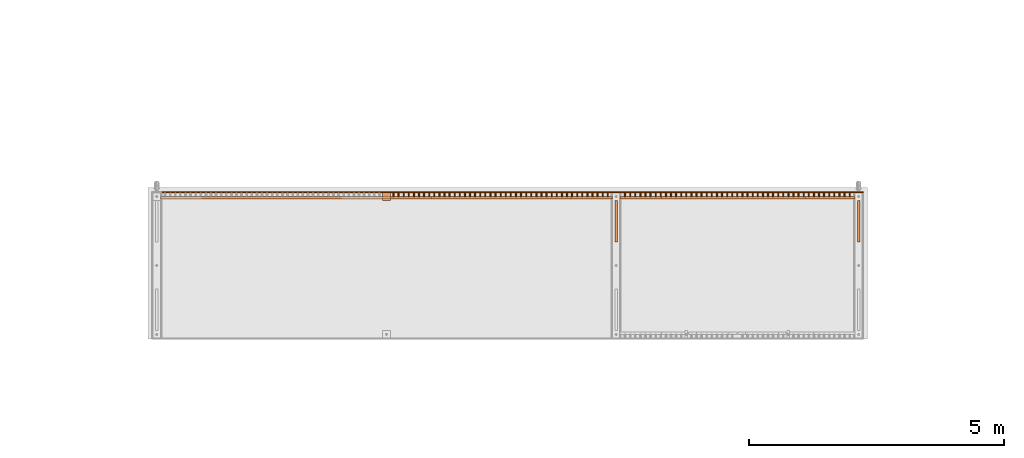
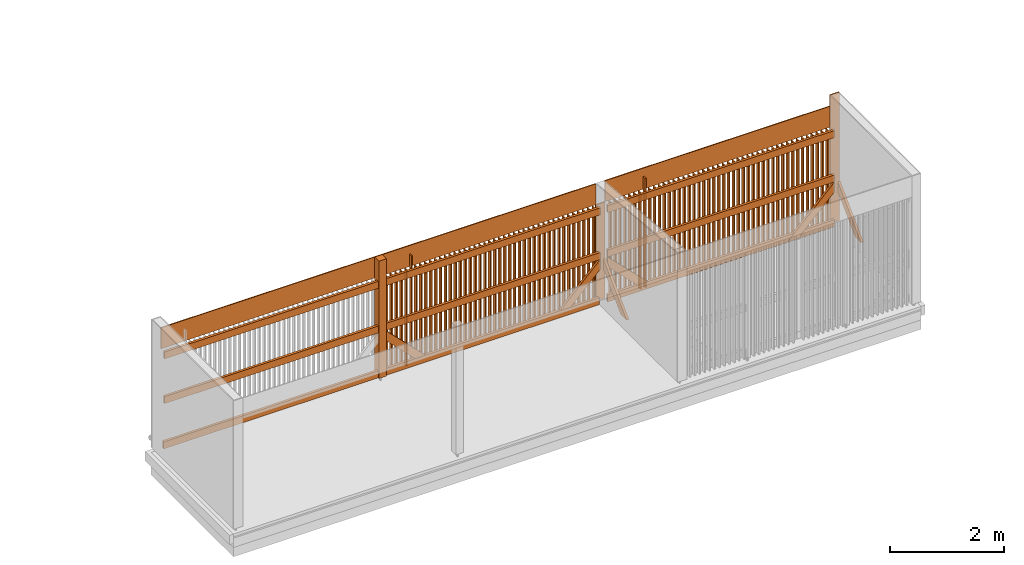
# One storey, part 358 of 418: 109 proxies.
"""IFC2X3 building model written with IfcOpenShell, lengths in millimetres."""

from ifc_helpers import new_model, entity, si_unit, converted_unit, derived_unit, money_unit, direction, frame, frame_2d, origin_with_axes, origin_2d_with_axis, place, context, subcontext, project, spatial, polyline, rectangle, outline, extrude, clip, halfspace, material, type_object, element, save


model = new_model("IFC2X3")

# Units and contexts
model_context = context("Model", 3, precision=0.01, world=origin_with_axes(), true_north=direction((0.0, 1.0)))
body_context = subcontext(model_context, "Body", "Model", "MODEL_VIEW")
ifc_project = project(units=[si_unit("LENGTHUNIT", "METRE", prefix="MILLI"), si_unit("AREAUNIT", "SQUARE_METRE"), si_unit("VOLUMEUNIT", "CUBIC_METRE"), converted_unit("PLANEANGLEUNIT", "DEGREE", entity("IfcPlaneAngleMeasure", 0.0174532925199), si_unit("PLANEANGLEUNIT", "RADIAN"), dimensions=[0, 0, 0, 0, 0, 0, 0]), si_unit("SOLIDANGLEUNIT", "STERADIAN"), money_unit("EUR"), converted_unit("TIMEUNIT", "Year", entity("IfcTimeMeasure", 31556926.0), si_unit("TIMEUNIT", "SECOND"), dimensions=[0, 0, 1, 0, 0, 0, 0]), si_unit("MASSUNIT", "GRAM", prefix="KILO"), si_unit("THERMODYNAMICTEMPERATUREUNIT", "DEGREE_CELSIUS"), si_unit("LUMINOUSINTENSITYUNIT", "LUMEN"), si_unit("ENERGYUNIT", "JOULE", prefix="MEGA"), derived_unit("THERMALCONDUCTANCEUNIT", [(si_unit("POWERUNIT", "WATT"), 1), (si_unit("LENGTHUNIT", "METRE"), -1), (si_unit("THERMODYNAMICTEMPERATUREUNIT", "KELVIN"), -1)]), derived_unit("SPECIFICHEATCAPACITYUNIT", [(si_unit("ENERGYUNIT", "JOULE"), 1), (si_unit("MASSUNIT", "GRAM", prefix="KILO"), -1), (si_unit("THERMODYNAMICTEMPERATUREUNIT", "KELVIN"), -1)]), derived_unit("MASSDENSITYUNIT", [(si_unit("MASSUNIT", "GRAM", prefix="KILO"), 1), (si_unit("VOLUMEUNIT", "CUBIC_METRE"), -1)])], contexts=[model_context])

# Site, building, storey
site_placement = place(None, origin_with_axes())
site = spatial("IfcSite", under=ifc_project, at=site_placement, Name="Paldiski mnt 245/1, Tallinn, Harjumaa", CompositionType="COMPLEX")
building_placement = place(site_placement, origin_with_axes())
building = spatial("IfcBuilding", under=site, at=building_placement, Name="RKAS Hoone üldnimetus (kasutust iseloomustav) -> IFC Project Manager -> SOLIBRI", CompositionType="ELEMENT")
storey_placement = place(building_placement, origin_with_axes())
storey = spatial("IfcBuildingStorey", under=building, at=storey_placement, Name="Esimene korrus", CompositionType="ELEMENT", Elevation=0.0)

# Proxies
ifc_material_1 = material(Name="Voodrilaud UYS 21x120mm")
building_element_proxy_type_1 = type_object("IfcBuildingElementProxyType", Name="Voodrilaud UYS 21x120mm 20", PredefinedType="NOTDEFINED")
proxy_1_placement = place(storey_placement, frame((-7319.27179277, 14018.7949578, -960.0), z_axis=(0.0, 0.0, 1.0), x_axis=(1.0, 0.0, 0.0)))
element("IfcBuildingElementProxy", 1, at=proxy_1_placement, inside=storey, type_object=building_element_proxy_type_1, material=ifc_material_1, Name="Välissein_1", context=body_context, shape_type="SweptSolid", body=[
    extrude(outline(polyline([(0.0, 0.0), (189.999991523, 0.0), (189.999991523, 20.0), (0.0, 20.0), (0.0, 0.0)])), origin_with_axes(), (0.0, 0.0, 1.0), 2752.59465133),
])
proxy_2_placement = place(storey_placement, frame((-12069.2717928, 14018.7949578, -960.0), z_axis=(0.0, 0.0, 1.0), x_axis=(1.0, 0.0, 0.0)))
element("IfcBuildingElementProxy", 2, at=proxy_2_placement, inside=storey, type_object=building_element_proxy_type_1, material=ifc_material_1, Name="Välissein_1", context=body_context, shape_type="SweptSolid", body=[
    extrude(outline(polyline([(0.0, 0.0), (189.999991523, 0.0), (189.999991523, 20.0), (0.0, 20.0), (0.0, 0.0)])), origin_with_axes(), (0.0, 0.0, 1.0), 2063.68114765),
])
proxy_3_placement = place(storey_placement, frame((-12069.2718012, 14019.7950178, 1103.68116898), z_axis=(0.0, 0.0, 1.0), x_axis=(-1.0, 0.0, 0.0)))
element("IfcBuildingElementProxy", 3, at=proxy_3_placement, inside=storey, type_object=building_element_proxy_type_1, material=ifc_material_1, Name="Puitlaudis UYS 20x120mm", context=body_context, shape_type="SweptSolid", body=[
    extrude(outline(polyline([(0.0, -20.0), (8810.00006937, -20.0), (8810.00006937, 0.0), (0.0, 0.0), (0.0, -20.0)])), origin_with_axes(), (0.0, 0.0, 1.0), 449.999978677),
])
proxy_4_placement = place(storey_placement, frame((-7319.27180125, 14019.7950178, 1103.68116898), z_axis=(0.0, 0.0, 1.0), x_axis=(-1.0, 0.0, 0.0)))
element("IfcBuildingElementProxy", 4, at=proxy_4_placement, inside=storey, type_object=building_element_proxy_type_1, material=ifc_material_1, Name="Puitlaudis UYS 20x120mm", context=body_context, shape_type="SweptSolid", body=[
    extrude(outline(polyline([(0.0, -20.0), (4560.00001496, -20.0), (4560.00001496, 0.0), (0.0, 0.0), (0.0, -20.0)])), origin_with_axes(), (0.0, 0.0, 1.0), 449.999978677),
])
ifc_material_2 = material(Name="Puit konstruktsioon")
building_element_proxy_type_2 = type_object("IfcBuildingElementProxyType", Name="Puit konstruktsioon 50 x 150", PredefinedType="NOTDEFINED")
proxy_5_placement = place(storey_placement, frame((-11086.2051196, 13919.7949578, -810.0), z_axis=(0.0, 0.0, 1.0), x_axis=(0.0, 1.0, 0.0)))
element("IfcBuildingElementProxy", 5, at=proxy_5_placement, inside=storey, type_object=building_element_proxy_type_2, material=ifc_material_2, Name="Puitpruss 150x50 mm", context=body_context, shape_type="Clipping", body=[
    clip(clip(extrude(rectangle(XDim=150.0, YDim=50.0, at=frame_2d((-75.0, 0.0), x_axis=(1.0, 0.0))), frame((0.0, -150.0, -150.0), z_axis=(0.0, 0.707106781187, 0.707106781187), x_axis=(0.0, -0.707106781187, 0.707106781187)), (0.0, 0.0, 1.0), 1574.11401019), halfspace(frame((0.0, 0.0, 0.0), z_axis=(0.0, 0.0, 1.0), x_axis=(0.0, -1.0, 0.0)), True)), halfspace(frame((0.0, 813.066690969, 0.0), z_axis=(0.0, -1.0, 0.0), x_axis=(0.0, 0.0, -1.0)), True)),
])
proxy_6_placement = place(storey_placement, frame((-8262.33854371, 13919.7949578, -960.0), z_axis=(0.0, 0.0, 1.0), x_axis=(0.0, -1.0, 0.0)))
element("IfcBuildingElementProxy", 6, at=proxy_6_placement, inside=storey, type_object=building_element_proxy_type_2, material=ifc_material_2, Name="Puitpruss 150x50 mm", context=body_context, shape_type="Clipping", body=[
    clip(clip(extrude(rectangle(XDim=150.0, YDim=50.0, at=frame_2d((-75.0, 0.0), x_axis=(1.0, 0.0))), frame((0.0, -150.0, -150.0), z_axis=(0.0, 0.707106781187, 0.707106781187), x_axis=(0.0, -0.707106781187, 0.707106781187)), (0.0, 0.0, 1.0), 1786.24604455), halfspace(frame((0.0, 0.0, 0.0), z_axis=(0.0, 0.0, 1.0), x_axis=(0.0, -1.0, 0.0)), True)), halfspace(frame((0.0, 963.066690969, 0.0), z_axis=(0.0, -1.0, 0.0), x_axis=(0.0, 0.0, -1.0)), True)),
])
proxy_7_placement = place(storey_placement, frame((-12049.2718528, 13919.7949578, 153.066705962), z_axis=(0.0, 0.0, 1.0), x_axis=(0.0, 1.0, 0.0)))
element("IfcBuildingElementProxy", 7, at=proxy_7_placement, inside=storey, type_object=building_element_proxy_type_2, material=ifc_material_2, Name="Puitpruss 50x150mm", context=body_context, shape_type="SweptSolid", body=[
    extrude(rectangle(XDim=150.0, YDim=50.0, at=frame_2d((-75.0, 0.0), x_axis=(1.0, 0.0))), frame((0.0, 0.0, 0.0), z_axis=(0.0, 1.0, 0.0), x_axis=(0.0, 0.0, 1.0)), (0.0, 0.0, 1.0), 8830.00001778),
])
for number, where, z_axis, x_axis, name in (
    (8, (-7299.27185274, 13919.7949578, -810.0), (0.0, 0.0, 1.0), (0.0, 1.0, 0.0), "Puitpruss 50x150mm"),
    (9, (-7299.27185274, 13919.7949578, 1103.68114765), (0.0, 0.0, 1.0), (0.0, 1.0, 0.0), "Puitpruss 50x150mm"),
    (10, (-7299.27185274, 13919.7949578, 153.066690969), (0.0, 0.0, 1.0), (0.0, 1.0, 0.0), "Puitpruss 50x150mm"),
):
    element("IfcBuildingElementProxy", number, at=place(storey_placement, frame(where, z_axis=z_axis, x_axis=x_axis)), inside=storey, type_object=building_element_proxy_type_2, material=ifc_material_2, Name=name, context=body_context, shape_type="SweptSolid", body=[
        extrude(rectangle(XDim=150.0, YDim=50.0, at=frame_2d((-75.0, 0.0), x_axis=(1.0, 0.0))), frame((0.0, 0.0, 0.0), z_axis=(0.0, 1.0, 0.0), x_axis=(0.0, 0.0, 1.0)), (0.0, 0.0, 1.0), 4599.9999578),
    ])
for number, where, z_axis, x_axis, name in (
    (11, (-12069.2719025, 13919.7949578, -810.0), (0.0, 0.0, 1.0), (0.0, 1.0, 0.0), "Puitpruss 50x150mm"),
    (12, (-12049.2718528, 13919.7949578, 1110.06670596), (0.0, 0.0, 1.0), (0.0, 1.0, 0.0), "Puitpruss 50x150mm"),
):
    element("IfcBuildingElementProxy", number, at=place(storey_placement, frame(where, z_axis=z_axis, x_axis=x_axis)), inside=storey, type_object=building_element_proxy_type_2, material=ifc_material_2, Name=name, context=body_context, shape_type="SweptSolid", body=[
        extrude(rectangle(XDim=150.0, YDim=50.0, at=frame_2d((-75.0, 0.0), x_axis=(1.0, 0.0))), frame((0.0, 0.0, 0.0), z_axis=(0.0, 1.0, 0.0), x_axis=(0.0, 0.0, 1.0)), (0.0, 0.0, 1.0), 8830.00001778),
    ])
proxy_8_placement = place(storey_placement, frame((-12862.3384979, 13919.7949578, -810.0), z_axis=(0.0, 0.0, 1.0), x_axis=(0.0, -1.0, 0.0)))
element("IfcBuildingElementProxy", 13, at=proxy_8_placement, inside=storey, type_object=building_element_proxy_type_2, material=ifc_material_2, Name="Puitpruss 150x50 mm", context=body_context, shape_type="Clipping", body=[
    clip(clip(extrude(rectangle(XDim=150.0, YDim=50.0, at=frame_2d((-75.0, 0.0), x_axis=(1.0, 0.0))), frame((0.0, -150.0, -150.0), z_axis=(0.0, 0.707106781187, 0.707106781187), x_axis=(0.0, -0.707106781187, 0.707106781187)), (0.0, 0.0, 1.0), 1574.1140314), halfspace(frame((0.0, 0.0, 0.0), z_axis=(0.0, 0.0, 1.0), x_axis=(0.0, -1.0, 0.0)), True)), halfspace(frame((0.0, 813.066705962, 0.0), z_axis=(0.0, -1.0, 0.0), x_axis=(0.0, 0.0, -1.0)), True)),
])
proxy_9_placement = place(storey_placement, frame((-15589.2718105, 13919.7949578, -810.0), z_axis=(0.0, 0.0, 1.0), x_axis=(0.0, 1.0, 0.0)))
element("IfcBuildingElementProxy", 14, at=proxy_9_placement, inside=storey, type_object=building_element_proxy_type_2, material=ifc_material_2, Name="Puitpruss 150x50 mm", context=body_context, shape_type="Clipping", body=[
    clip(clip(extrude(rectangle(XDim=150.0, YDim=50.0, at=frame_2d((-75.0, 0.0), x_axis=(1.0, 0.0))), frame((0.0, -150.0, -150.0), z_axis=(0.0, 0.707106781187, 0.707106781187), x_axis=(0.0, -0.707106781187, 0.707106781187)), (0.0, 0.0, 1.0), 1569.77705423), halfspace(frame((0.0, 0.0, 0.0), z_axis=(0.0, 0.0, 1.0), x_axis=(0.0, -1.0, 0.0)), True)), halfspace(frame((0.0, 810.0, 0.0), z_axis=(0.0, -1.0, 0.0), x_axis=(0.0, 0.0, -1.0)), True)),
])
for number, where, z_axis, x_axis, name in (
    (15, (-7224.27180125, 13056.7282668, -810.0), (0.0, 0.0, 1.0), (1.0, 0.0, 0.0), "Puitpruss 150x50 mm"),
    (16, (-11974.2718528, 13056.7282668, -810.0), (0.0, 0.0, 1.0), (1.0, 0.0, 0.0), "Puitpruss 150x50 mm"),
):
    element("IfcBuildingElementProxy", number, at=place(storey_placement, frame(where, z_axis=z_axis, x_axis=x_axis)), inside=storey, type_object=building_element_proxy_type_2, material=ifc_material_2, Name=name, context=body_context, shape_type="Clipping", body=[
        clip(clip(extrude(rectangle(XDim=150.0, YDim=50.0, at=frame_2d((-75.0, 0.0), x_axis=(1.0, 0.0))), frame((0.0, -150.0, -150.0), z_axis=(0.0, 0.707106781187, 0.707106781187), x_axis=(0.0, -0.707106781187, 0.707106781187)), (0.0, 0.0, 1.0), 1574.11401019), halfspace(frame((0.0, 0.0, 0.0), z_axis=(0.0, 0.0, 1.0), x_axis=(0.0, -1.0, 0.0)), True)), halfspace(frame((0.0, 813.066690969, 0.0), z_axis=(0.0, -1.0, 0.0), x_axis=(0.0, 0.0, -1.0)), True)),
    ])
building_element_proxy_type_3 = type_object("IfcBuildingElementProxyType", Name="Puit konstruktsioon 25 x 75", PredefinedType="NOTDEFINED")
for number, where, z_axis, x_axis, name in (
    (17, (-9599.27179341, 13982.2949578, -960.0), (0.0, 0.0, 1.0), (-1.0, 0.0, 0.0), "Puitlaud 25x75 mm"),
    (18, (-9499.27179341, 13982.2949578, -960.0), (0.0, 0.0, 1.0), (-1.0, 0.0, 0.0), "Puitlaud 25x75 mm"),
    (19, (-9099.27179341, 13982.2949578, -960.0), (0.0, 0.0, 1.0), (-1.0, 0.0, 0.0), "Puitlaud 25x75 mm"),
    (20, (-9699.27179341, 13982.2949578, -960.0), (0.0, 0.0, 1.0), (-1.0, 0.0, 0.0), "Puitlaud 25x75 mm"),
    (21, (-9899.27179341, 13982.2949578, -960.0), (0.0, 0.0, 1.0), (-1.0, 0.0, 0.0), "Puitlaud 25x75 mm"),
    (22, (-9799.27179341, 13982.2949578, -960.0), (0.0, 0.0, 1.0), (-1.0, 0.0, 0.0), "Puitlaud 25x75 mm"),
    (23, (-9199.27179341, 13982.2949578, -960.0), (0.0, 0.0, 1.0), (-1.0, 0.0, 0.0), "Puitlaud 25x75 mm"),
    (24, (-9299.27179341, 13982.2949578, -960.0), (0.0, 0.0, 1.0), (-1.0, 0.0, 0.0), "Puitlaud 25x75 mm"),
    (25, (-9399.27179341, 13982.2949578, -960.0), (0.0, 0.0, 1.0), (-1.0, 0.0, 0.0), "Puitlaud 25x75 mm"),
    (26, (-8999.27179341, 13982.2949578, -960.0), (0.0, 0.0, 1.0), (-1.0, 0.0, 0.0), "Puitlaud 25x75 mm"),
    (27, (-11199.2717934, 13982.2949578, -960.0), (0.0, 0.0, 1.0), (-1.0, 0.0, 0.0), "Puitlaud 25x75 mm"),
    (28, (-7999.27179341, 13982.2949578, -960.0), (0.0, 0.0, 1.0), (-1.0, 0.0, 0.0), "Puitlaud 25x75 mm"),
    (29, (-8099.27179341, 13982.2949578, -960.0), (0.0, 0.0, 1.0), (-1.0, 0.0, 0.0), "Puitlaud 25x75 mm"),
    (30, (-8199.27179341, 13982.2949578, -960.0), (0.0, 0.0, 1.0), (-1.0, 0.0, 0.0), "Puitlaud 25x75 mm"),
    (31, (-8299.27179341, 13982.2949578, -960.0), (0.0, 0.0, 1.0), (-1.0, 0.0, 0.0), "Puitlaud 25x75 mm"),
    (32, (-8399.27179341, 13982.2949578, -960.0), (0.0, 0.0, 1.0), (-1.0, 0.0, 0.0), "Puitlaud 25x75 mm"),
    (33, (-8499.27179341, 13982.2949578, -960.0), (0.0, 0.0, 1.0), (-1.0, 0.0, 0.0), "Puitlaud 25x75 mm"),
    (34, (-8599.27179341, 13982.2949578, -960.0), (0.0, 0.0, 1.0), (-1.0, 0.0, 0.0), "Puitlaud 25x75 mm"),
    (35, (-8699.27179341, 13982.2949578, -960.0), (0.0, 0.0, 1.0), (-1.0, 0.0, 0.0), "Puitlaud 25x75 mm"),
    (36, (-8799.27179341, 13982.2949578, -960.0), (0.0, 0.0, 1.0), (-1.0, 0.0, 0.0), "Puitlaud 25x75 mm"),
    (37, (-8899.27179341, 13982.2949578, -960.0), (0.0, 0.0, 1.0), (-1.0, 0.0, 0.0), "Puitlaud 25x75 mm"),
    (38, (-11099.2717934, 13982.2949578, -960.0), (0.0, 0.0, 1.0), (-1.0, 0.0, 0.0), "Puitlaud 25x75 mm"),
    (39, (-11199.2717934, 13982.2949578, -960.0), (0.0, 0.0, 1.0), (-1.0, 0.0, 0.0), "Puitlaud 25x75 mm"),
):
    element("IfcBuildingElementProxy", number, at=place(storey_placement, frame(where, z_axis=z_axis, x_axis=x_axis)), inside=storey, type_object=building_element_proxy_type_3, material=ifc_material_2, Name=name, context=body_context, shape_type="SweptSolid", body=[
        extrude(rectangle(XDim=25.0, YDim=75.0, at=origin_2d_with_axis()), origin_with_axes(), (0.0, 0.0, 1.0), 2063.68116741),
    ])
proxy_10_placement = place(storey_placement, frame((-11099.2717934, 13982.2949578, -960.0), z_axis=(0.0, 0.0, 1.0), x_axis=(-1.0, 0.0, 0.0)))
element("IfcBuildingElementProxy", 40, at=proxy_10_placement, inside=storey, type_object=building_element_proxy_type_3, material=ifc_material_2, Name="Puitlaud 25x75 mm", context=body_context, shape_type="SweptSolid", body=[
    extrude(rectangle(XDim=25.0, YDim=75.0, at=origin_2d_with_axis()), origin_with_axes(), (0.0, 0.0, 1.0), 2334.0),
])
for number, where, z_axis, x_axis, name in (
    (41, (-10999.2717934, 13982.2949578, -960.0), (0.0, 0.0, 1.0), (-1.0, 0.0, 0.0), "Puitlaud 25x75 mm"),
    (42, (-10899.2717934, 13982.2949578, -960.0), (0.0, 0.0, 1.0), (-1.0, 0.0, 0.0), "Puitlaud 25x75 mm"),
    (43, (-10799.2717934, 13982.2949578, -960.0), (0.0, 0.0, 1.0), (-1.0, 0.0, 0.0), "Puitlaud 25x75 mm"),
    (44, (-10699.2717934, 13982.2949578, -960.0), (0.0, 0.0, 1.0), (-1.0, 0.0, 0.0), "Puitlaud 25x75 mm"),
    (45, (-10599.2717934, 13982.2949578, -960.0), (0.0, 0.0, 1.0), (-1.0, 0.0, 0.0), "Puitlaud 25x75 mm"),
    (46, (-10499.2717934, 13982.2949578, -960.0), (0.0, 0.0, 1.0), (-1.0, 0.0, 0.0), "Puitlaud 25x75 mm"),
    (47, (-10399.2717934, 13982.2949578, -960.0), (0.0, 0.0, 1.0), (-1.0, 0.0, 0.0), "Puitlaud 25x75 mm"),
    (48, (-10299.2717934, 13982.2949578, -960.0), (0.0, 0.0, 1.0), (-1.0, 0.0, 0.0), "Puitlaud 25x75 mm"),
    (49, (-10199.2717934, 13982.2949578, -960.0), (0.0, 0.0, 1.0), (-1.0, 0.0, 0.0), "Puitlaud 25x75 mm"),
    (50, (-10099.2717934, 13982.2949578, -960.0), (0.0, 0.0, 1.0), (-1.0, 0.0, 0.0), "Puitlaud 25x75 mm"),
    (51, (-9999.27179341, 13982.2949578, -960.0), (0.0, 0.0, 1.0), (-1.0, 0.0, 0.0), "Puitlaud 25x75 mm"),
    (52, (-7399.27179341, 13982.2949578, -960.0), (0.0, 0.0, 1.0), (-1.0, 0.0, 0.0), "Puitlaud 25x75 mm"),
    (53, (-7499.27179341, 13982.2949578, -960.0), (0.0, 0.0, 1.0), (-1.0, 0.0, 0.0), "Puitlaud 25x75 mm"),
    (54, (-7599.27179341, 13982.2949578, -960.0), (0.0, 0.0, 1.0), (-1.0, 0.0, 0.0), "Puitlaud 25x75 mm"),
    (55, (-7699.27179341, 13982.2949578, -960.0), (0.0, 0.0, 1.0), (-1.0, 0.0, 0.0), "Puitlaud 25x75 mm"),
    (56, (-7799.27179341, 13982.2949578, -960.0), (0.0, 0.0, 1.0), (-1.0, 0.0, 0.0), "Puitlaud 25x75 mm"),
    (57, (-7899.27179341, 13982.2949578, -960.0), (0.0, 0.0, 1.0), (-1.0, 0.0, 0.0), "Puitlaud 25x75 mm"),
    (58, (-11299.2717934, 13982.2949578, -960.0), (0.0, 0.0, 1.0), (-1.0, 0.0, 0.0), "Puitlaud 25x75 mm"),
    (59, (-11399.2717934, 13982.2949578, -960.0), (0.0, 0.0, 1.0), (-1.0, 0.0, 0.0), "Puitlaud 25x75 mm"),
    (60, (-11499.2717934, 13982.2949578, -960.0), (0.0, 0.0, 1.0), (-1.0, 0.0, 0.0), "Puitlaud 25x75 mm"),
    (61, (-11599.2717934, 13982.2949578, -960.0), (0.0, 0.0, 1.0), (-1.0, 0.0, 0.0), "Puitlaud 25x75 mm"),
    (62, (-11699.2717934, 13982.2949578, -960.0), (0.0, 0.0, 1.0), (-1.0, 0.0, 0.0), "Puitlaud 25x75 mm"),
    (63, (-11799.2717934, 13982.2949578, -960.0), (0.0, 0.0, 1.0), (-1.0, 0.0, 0.0), "Puitlaud 25x75 mm"),
):
    element("IfcBuildingElementProxy", number, at=place(storey_placement, frame(where, z_axis=z_axis, x_axis=x_axis)), inside=storey, type_object=building_element_proxy_type_3, material=ifc_material_2, Name=name, context=body_context, shape_type="SweptSolid", body=[
        extrude(rectangle(XDim=25.0, YDim=75.0, at=origin_2d_with_axis()), origin_with_axes(), (0.0, 0.0, 1.0), 2063.68116741),
    ])
for number, where, z_axis, x_axis, name in (
    (64, (-14336.7718366, 13982.2949578, -960.0), (0.0, 0.0, 1.0), (-1.0, 0.0, 0.0), "Puitlaud 25x75 mm"),
    (65, (-14236.7718366, 13982.2949578, -960.0), (0.0, 0.0, 1.0), (-1.0, 0.0, 0.0), "Puitlaud 25x75 mm"),
    (66, (-13836.7718366, 13982.2949578, -960.0), (0.0, 0.0, 1.0), (-1.0, 0.0, 0.0), "Puitlaud 25x75 mm"),
    (67, (-14436.7718366, 13982.2949578, -960.0), (0.0, 0.0, 1.0), (-1.0, 0.0, 0.0), "Puitlaud 25x75 mm"),
    (68, (-14636.7718366, 13982.2949578, -960.0), (0.0, 0.0, 1.0), (-1.0, 0.0, 0.0), "Puitlaud 25x75 mm"),
    (69, (-14536.7718366, 13982.2949578, -960.0), (0.0, 0.0, 1.0), (-1.0, 0.0, 0.0), "Puitlaud 25x75 mm"),
    (70, (-13936.7718366, 13982.2949578, -960.0), (0.0, 0.0, 1.0), (-1.0, 0.0, 0.0), "Puitlaud 25x75 mm"),
    (71, (-14036.7718366, 13982.2949578, -960.0), (0.0, 0.0, 1.0), (-1.0, 0.0, 0.0), "Puitlaud 25x75 mm"),
    (72, (-14136.7718366, 13982.2949578, -960.0), (0.0, 0.0, 1.0), (-1.0, 0.0, 0.0), "Puitlaud 25x75 mm"),
    (73, (-13736.7718366, 13982.2949578, -960.0), (0.0, 0.0, 1.0), (-1.0, 0.0, 0.0), "Puitlaud 25x75 mm"),
    (74, (-15936.7718366, 13982.2949578, -960.0), (0.0, 0.0, 1.0), (-1.0, 0.0, 0.0), "Puitlaud 25x75 mm"),
    (75, (-12736.7718366, 13982.2949578, -960.0), (0.0, 0.0, 1.0), (-1.0, 0.0, 0.0), "Puitlaud 25x75 mm"),
    (76, (-12836.7718366, 13982.2949578, -960.0), (0.0, 0.0, 1.0), (-1.0, 0.0, 0.0), "Puitlaud 25x75 mm"),
    (77, (-12936.7718366, 13982.2949578, -960.0), (0.0, 0.0, 1.0), (-1.0, 0.0, 0.0), "Puitlaud 25x75 mm"),
    (78, (-13036.7718366, 13982.2949578, -960.0), (0.0, 0.0, 1.0), (-1.0, 0.0, 0.0), "Puitlaud 25x75 mm"),
    (79, (-13136.7718366, 13982.2949578, -960.0), (0.0, 0.0, 1.0), (-1.0, 0.0, 0.0), "Puitlaud 25x75 mm"),
    (80, (-13236.7718366, 13982.2949578, -960.0), (0.0, 0.0, 1.0), (-1.0, 0.0, 0.0), "Puitlaud 25x75 mm"),
    (81, (-13336.7718366, 13982.2949578, -960.0), (0.0, 0.0, 1.0), (-1.0, 0.0, 0.0), "Puitlaud 25x75 mm"),
    (82, (-13436.7718366, 13982.2949578, -960.0), (0.0, 0.0, 1.0), (-1.0, 0.0, 0.0), "Puitlaud 25x75 mm"),
    (83, (-13536.7718366, 13982.2949578, -960.0), (0.0, 0.0, 1.0), (-1.0, 0.0, 0.0), "Puitlaud 25x75 mm"),
    (84, (-13636.7718366, 13982.2949578, -960.0), (0.0, 0.0, 1.0), (-1.0, 0.0, 0.0), "Puitlaud 25x75 mm"),
):
    element("IfcBuildingElementProxy", number, at=place(storey_placement, frame(where, z_axis=z_axis, x_axis=x_axis)), inside=storey, type_object=building_element_proxy_type_3, material=ifc_material_2, Name=name, context=body_context, shape_type="SweptSolid", body=[
        extrude(rectangle(XDim=25.0, YDim=75.0, at=origin_2d_with_axis()), origin_with_axes(), (0.0, 0.0, 1.0), 2063.68114765),
    ])
proxy_11_placement = place(storey_placement, frame((-15836.7718366, 13982.2949578, -960.0), z_axis=(0.0, 0.0, 1.0), x_axis=(-1.0, 0.0, 0.0)))
element("IfcBuildingElementProxy", 85, at=proxy_11_placement, inside=storey, type_object=building_element_proxy_type_3, material=ifc_material_2, Name="Puitlaud 25x75 mm", context=body_context, shape_type="SweptSolid", body=[
    extrude(rectangle(XDim=25.0, YDim=75.0, at=origin_2d_with_axis()), origin_with_axes(), (0.0, 0.0, 1.0), 2334.0),
])
for number, where, z_axis, x_axis, name in (
    (86, (-15936.7718366, 13982.2949578, -960.0), (0.0, 0.0, 1.0), (-1.0, 0.0, 0.0), "Puitlaud 25x75 mm"),
    (87, (-15836.7718366, 13982.2949578, -960.0), (0.0, 0.0, 1.0), (-1.0, 0.0, 0.0), "Puitlaud 25x75 mm"),
    (88, (-15736.7718366, 13982.2949578, -960.0), (0.0, 0.0, 1.0), (-1.0, 0.0, 0.0), "Puitlaud 25x75 mm"),
    (89, (-15636.7718366, 13982.2949578, -960.0), (0.0, 0.0, 1.0), (-1.0, 0.0, 0.0), "Puitlaud 25x75 mm"),
    (90, (-15536.7718366, 13982.2949578, -960.0), (0.0, 0.0, 1.0), (-1.0, 0.0, 0.0), "Puitlaud 25x75 mm"),
    (91, (-15436.7718366, 13982.2949578, -960.0), (0.0, 0.0, 1.0), (-1.0, 0.0, 0.0), "Puitlaud 25x75 mm"),
    (92, (-15336.7718366, 13982.2949578, -960.0), (0.0, 0.0, 1.0), (-1.0, 0.0, 0.0), "Puitlaud 25x75 mm"),
    (93, (-15236.7718366, 13982.2949578, -960.0), (0.0, 0.0, 1.0), (-1.0, 0.0, 0.0), "Puitlaud 25x75 mm"),
    (94, (-15136.7718366, 13982.2949578, -960.0), (0.0, 0.0, 1.0), (-1.0, 0.0, 0.0), "Puitlaud 25x75 mm"),
    (95, (-15036.7718366, 13982.2949578, -960.0), (0.0, 0.0, 1.0), (-1.0, 0.0, 0.0), "Puitlaud 25x75 mm"),
    (96, (-14936.7718366, 13982.2949578, -960.0), (0.0, 0.0, 1.0), (-1.0, 0.0, 0.0), "Puitlaud 25x75 mm"),
    (97, (-14836.7718366, 13982.2949578, -960.0), (0.0, 0.0, 1.0), (-1.0, 0.0, 0.0), "Puitlaud 25x75 mm"),
    (98, (-14736.7718366, 13982.2949578, -960.0), (0.0, 0.0, 1.0), (-1.0, 0.0, 0.0), "Puitlaud 25x75 mm"),
    (99, (-12136.7718366, 13982.2949578, -960.0), (0.0, 0.0, 1.0), (-1.0, 0.0, 0.0), "Puitlaud 25x75 mm"),
    (100, (-12236.7718366, 13982.2949578, -960.0), (0.0, 0.0, 1.0), (-1.0, 0.0, 0.0), "Puitlaud 25x75 mm"),
    (101, (-12336.7718366, 13982.2949578, -960.0), (0.0, 0.0, 1.0), (-1.0, 0.0, 0.0), "Puitlaud 25x75 mm"),
    (102, (-12436.7718366, 13982.2949578, -960.0), (0.0, 0.0, 1.0), (-1.0, 0.0, 0.0), "Puitlaud 25x75 mm"),
    (103, (-12536.7718366, 13982.2949578, -960.0), (0.0, 0.0, 1.0), (-1.0, 0.0, 0.0), "Puitlaud 25x75 mm"),
    (104, (-12636.7718366, 13982.2949578, -960.0), (0.0, 0.0, 1.0), (-1.0, 0.0, 0.0), "Puitlaud 25x75 mm"),
    (105, (-16036.7718366, 13982.2949578, -960.0), (0.0, 0.0, 1.0), (-1.0, 0.0, 0.0), "Puitlaud 25x75 mm"),
    (106, (-16136.7718366, 13982.2949578, -960.0), (0.0, 0.0, 1.0), (-1.0, 0.0, 0.0), "Puitlaud 25x75 mm"),
    (107, (-16236.7718366, 13982.2949578, -960.0), (0.0, 0.0, 1.0), (-1.0, 0.0, 0.0), "Puitlaud 25x75 mm"),
    (108, (-16336.7718366, 13982.2949578, -960.0), (0.0, 0.0, 1.0), (-1.0, 0.0, 0.0), "Puitlaud 25x75 mm"),
):
    element("IfcBuildingElementProxy", number, at=place(storey_placement, frame(where, z_axis=z_axis, x_axis=x_axis)), inside=storey, type_object=building_element_proxy_type_3, material=ifc_material_2, Name=name, context=body_context, shape_type="SweptSolid", body=[
        extrude(rectangle(XDim=25.0, YDim=75.0, at=origin_2d_with_axis()), origin_with_axes(), (0.0, 0.0, 1.0), 2063.68114765),
    ])
building_element_proxy_type_4 = type_object("IfcBuildingElementProxyType", Name="Puit konstruktsioon 150 x 150", PredefinedType="NOTDEFINED")
proxy_12_placement = place(storey_placement, frame((-16474.2718528, 13944.7949578, -960.0), z_axis=(0.0, 0.0, 1.0), x_axis=(-1.0, 0.0, 0.0)))
element("IfcBuildingElementProxy", 109, at=proxy_12_placement, inside=storey, type_object=building_element_proxy_type_4, material=ifc_material_2, Name="Puitpruss 150x150 mm", context=body_context, shape_type="SweptSolid", body=[
    extrude(rectangle(XDim=150.0, YDim=150.0, at=origin_2d_with_axis()), origin_with_axes(), (0.0, 0.0, 1.0), 2513.68114765),
])

save(model, "model.ifc")
